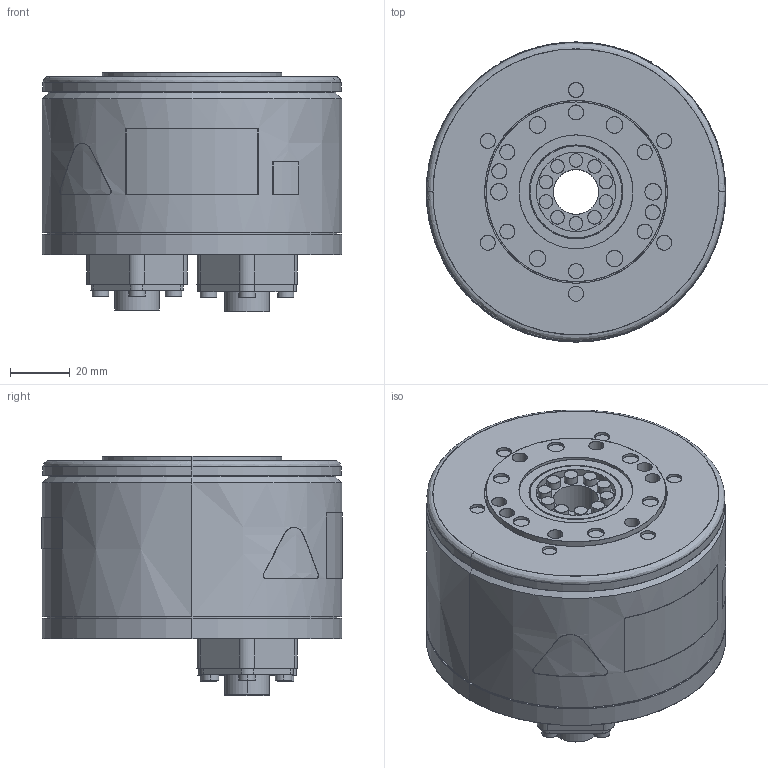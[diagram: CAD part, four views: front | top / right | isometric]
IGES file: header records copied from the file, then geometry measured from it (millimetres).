
Start section: SolidWorks IGES file using analytic representation for surfaces
Bounding box: 100 x 100.2 x 80.1 mm (x, y, z)
Surface area: 45424.7 mm2 (no closed solid volume)
Topology: 0 solids, 0 shells, 348 faces, 6909 edges, 6909 vertices
Faces by surface type: revolution 195, bspline 153
